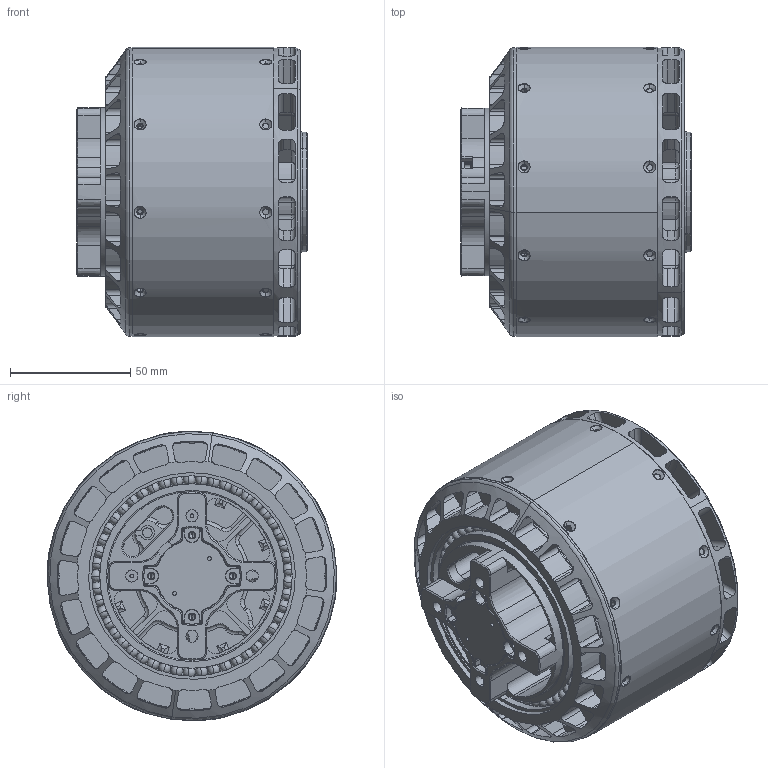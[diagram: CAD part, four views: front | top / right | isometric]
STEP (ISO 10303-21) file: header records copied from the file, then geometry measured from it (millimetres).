
FILE_DESCRIPTION (( 'STEP AP214' ), '1' );
FILE_NAME ('VL11142µç»ú.STEP', '2025-06-19T04:01:49', ( '' ), ( '' ), 'SwSTEP 2.0', 'SolidWorks 2021', '' );
FILE_SCHEMA (( 'AUTOMOTIVE_DESIGN' ));
Length unit declared in the file: millimetre
Products named in the file (1): VL11142萇儂
Bounding box: 96 x 120.43 x 120.43 mm (x, y, z)
Volume: 523291.7 mm3; surface area: 211161.5 mm2
Topology: 2 solids, 14 shells, 3284 faces, 10321 edges, 6312 vertices
Faces by surface type: cylinder 1218, plane 584, torus 529, cone 457, sphere 448, bspline 48
Entity records: 160067 total; most frequent: CARTESIAN_POINT 38162, ORIENTED_EDGE 19130, DIRECTION 17904, EDGE_CURVE 9565, AXIS2_PLACEMENT_3D 7526, VERTEX_POINT 6088, CIRCLE 4289, EDGE_LOOP 3505
